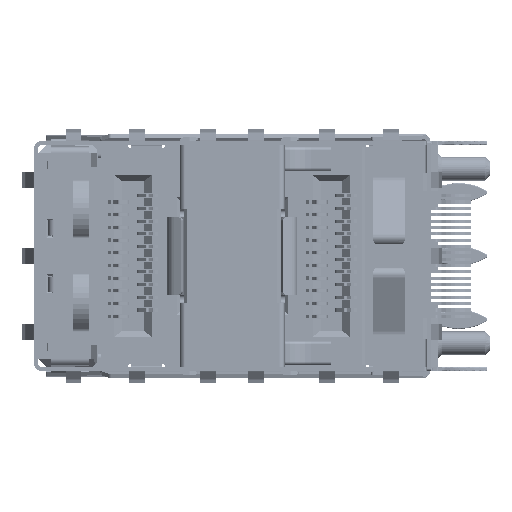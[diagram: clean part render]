
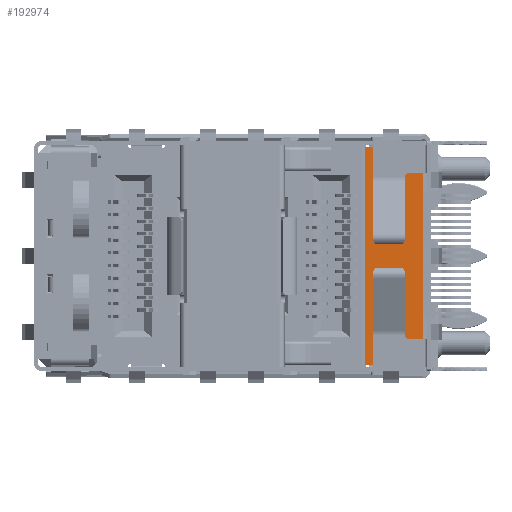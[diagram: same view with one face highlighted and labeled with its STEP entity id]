
A CAD part, left-side view. The second image highlights one B-rep face of the part: STEP entity #192974.
In plain terms, the highlighted planar face has unit normal (-1, 0, 0) as drawn and (0, 0, 1) by its records, which use the part's own axes.
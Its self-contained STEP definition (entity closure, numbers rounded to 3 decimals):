
#11778 = FACE_OUTER_BOUND ( 'NONE', #37409, .T. ) ;
#12596 = VERTEX_POINT ( 'NONE', #186419 ) ;
#13010 = VERTEX_POINT ( 'NONE', #185065 ) ;
#13013 = VERTEX_POINT ( 'NONE', #185160 ) ;
#14192 = VERTEX_POINT ( 'NONE', #178581 ) ;
#33054 = VERTEX_POINT ( 'NONE', #105734 ) ;
#33130 = VERTEX_POINT ( 'NONE', #105966 ) ;
#33198 = VERTEX_POINT ( 'NONE', #106288 ) ;
#33217 = VERTEX_POINT ( 'NONE', #104978 ) ;
#37409 = EDGE_LOOP ( 'NONE', ( #271273, #271080, #271280, #271024, #271098, #271225, #271143, #271141 ) ) ;
#104978 = CARTESIAN_POINT ( 'NONE',  ( 6.87, 2.5, -9.65 ) ) ;
#105734 = CARTESIAN_POINT ( 'NONE',  ( -5.37, 2.5, -9.65 ) ) ;
#105966 = CARTESIAN_POINT ( 'NONE',  ( -5.37, 1., -9.65 ) ) ;
#106288 = CARTESIAN_POINT ( 'NONE',  ( 6.87, 4.625, -9.65 ) ) ;
#134804 = LINE ( 'NONE', #141671, #135008 ) ;
#135008 = VECTOR ( 'NONE', #141674, 1000. ) ;
#135105 = VECTOR ( 'NONE', #141718, 1000. ) ;
#135194 = LINE ( 'NONE', #141776, #135273 ) ;
#135199 = VECTOR ( 'NONE', #141752, 1000. ) ;
#135228 = LINE ( 'NONE', #141695, #135105 ) ;
#135273 = VECTOR ( 'NONE', #141730, 1000. ) ;
#135391 = LINE ( 'NONE', #141785, #135199 ) ;
#135775 = LINE ( 'NONE', #142020, #135778 ) ;
#135778 = VECTOR ( 'NONE', #142068, 1000. ) ;
#135929 = LINE ( 'NONE', #142078, #136002 ) ;
#136002 = VECTOR ( 'NONE', #142083, 1000. ) ;
#141671 = CARTESIAN_POINT ( 'NONE',  ( 6.87, 4.8, -9.65 ) ) ;
#141674 = DIRECTION ( 'NONE',  ( 0., -1., 0. ) ) ;
#141695 = CARTESIAN_POINT ( 'NONE',  ( 0., 4.625, -9.65 ) ) ;
#141718 = DIRECTION ( 'NONE',  ( -1., 0., 0. ) ) ;
#141730 = DIRECTION ( 'NONE',  ( 0., -1., 0. ) ) ;
#141752 = DIRECTION ( 'NONE',  ( -1., 0., 0. ) ) ;
#141776 = CARTESIAN_POINT ( 'NONE',  ( -5.37, 2.5, -9.65 ) ) ;
#141785 = CARTESIAN_POINT ( 'NONE',  ( -5.37, 2.5, -9.65 ) ) ;
#142020 = CARTESIAN_POINT ( 'NONE',  ( 5.37, 2.5, -9.65 ) ) ;
#142068 = DIRECTION ( 'NONE',  ( -1., 0., 0. ) ) ;
#142078 = CARTESIAN_POINT ( 'NONE',  ( -6.98, 1., -9.65 ) ) ;
#142083 = DIRECTION ( 'NONE',  ( 1., 0., 0. ) ) ;
#162619 = CARTESIAN_POINT ( 'NONE',  ( -6.87, 4.8, -9.65 ) ) ;
#162664 = DIRECTION ( 'NONE',  ( 0., 1., 0. ) ) ;
#176291 = CARTESIAN_POINT ( 'NONE',  ( 5.37, 2.5, -9.65 ) ) ;
#176327 = DIRECTION ( 'NONE',  ( 0., -1., 0. ) ) ;
#178581 = CARTESIAN_POINT ( 'NONE',  ( 5.37, 2.5, -9.65 ) ) ;
#180286 = LINE ( 'NONE', #176291, #180341 ) ;
#180341 = VECTOR ( 'NONE', #176327, 1000. ) ;
#182915 = LINE ( 'NONE', #162619, #182941 ) ;
#182941 = VECTOR ( 'NONE', #162664, 1000. ) ;
#185065 = CARTESIAN_POINT ( 'NONE',  ( -6.87, 4.625, -9.65 ) ) ;
#185160 = CARTESIAN_POINT ( 'NONE',  ( -6.87, 2.5, -9.65 ) ) ;
#186419 = CARTESIAN_POINT ( 'NONE',  ( 5.37, 1., -9.65 ) ) ;
#192974 = ADVANCED_FACE ( 'NONE', ( #11778 ), #268123, .T. ) ;
#218666 = EDGE_CURVE ( 'NONE', #14192, #12596, #180286, .T. ) ;
#219596 = EDGE_CURVE ( 'NONE', #13013, #13010, #182915, .T. ) ;
#223436 = EDGE_CURVE ( 'NONE', #33198, #33217, #134804, .T. ) ;
#223491 = EDGE_CURVE ( 'NONE', #33198, #13010, #135228, .T. ) ;
#223521 = EDGE_CURVE ( 'NONE', #33054, #33130, #135194, .T. ) ;
#223540 = EDGE_CURVE ( 'NONE', #33054, #13013, #135391, .T. ) ;
#223698 = EDGE_CURVE ( 'NONE', #33217, #14192, #135775, .T. ) ;
#223775 = EDGE_CURVE ( 'NONE', #33130, #12596, #135929, .T. ) ;
#262599 = AXIS2_PLACEMENT_3D ( 'NONE', #268218, #268205, #268185 ) ;
#268123 = PLANE ( 'NONE',  #262599 ) ;
#268185 = DIRECTION ( 'NONE',  ( 1., 0., 0. ) ) ;
#268205 = DIRECTION ( 'NONE',  ( 0., 0., 1. ) ) ;
#268218 = CARTESIAN_POINT ( 'NONE',  ( 0., 0., -9.65 ) ) ;
#271024 = ORIENTED_EDGE ( 'NONE', *, *, #223698, .F. ) ;
#271080 = ORIENTED_EDGE ( 'NONE', *, *, #223775, .T. ) ;
#271098 = ORIENTED_EDGE ( 'NONE', *, *, #223436, .F. ) ;
#271141 = ORIENTED_EDGE ( 'NONE', *, *, #223540, .F. ) ;
#271143 = ORIENTED_EDGE ( 'NONE', *, *, #219596, .F. ) ;
#271225 = ORIENTED_EDGE ( 'NONE', *, *, #223491, .T. ) ;
#271273 = ORIENTED_EDGE ( 'NONE', *, *, #223521, .T. ) ;
#271280 = ORIENTED_EDGE ( 'NONE', *, *, #218666, .F. ) ;
